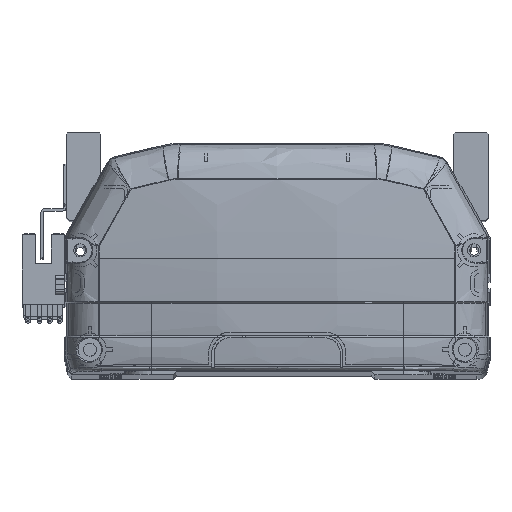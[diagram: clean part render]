
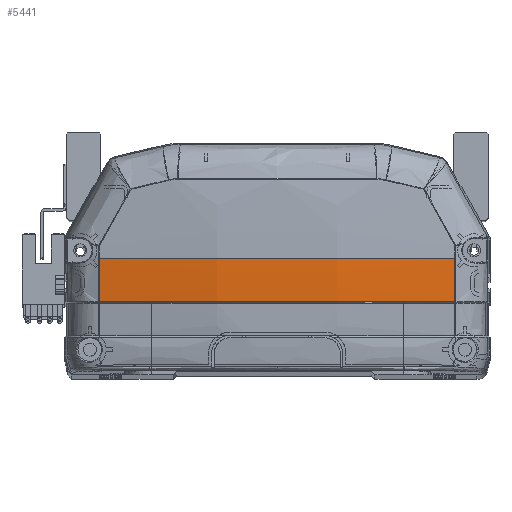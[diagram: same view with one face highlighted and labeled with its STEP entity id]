
A CAD part, top view. The second image highlights one B-rep face of the part: STEP entity #5441.
In plain terms, the highlighted free-form (B-spline) face has degree [3, 3] with [4, 4] control points.
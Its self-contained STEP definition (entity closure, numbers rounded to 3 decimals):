
#1258 = CARTESIAN_POINT ( 'NONE',  ( 57.335, 26.762, -4.928 ) ) ;
#2290 = CARTESIAN_POINT ( 'NONE',  ( -56.652, 26.814, -5.045 ) ) ;
#2812 = CARTESIAN_POINT ( 'NONE',  ( -19.295, 26.549, -11.419 ) ) ;
#4246 = CARTESIAN_POINT ( 'NONE',  ( 6452.613, 35.969, -5.158 ) ) ;
#4290 = CARTESIAN_POINT ( 'NONE',  ( 56.661, 22.225, -4.818 ) ) ;
#4483 = CARTESIAN_POINT ( 'NONE',  ( 8.363, 22.225, -9.48 ) ) ;
#4873 = EDGE_CURVE ( 'NONE', #52359, #14661, #55222, .T. ) ;
#5441 = ADVANCED_FACE ( 'NONE', ( #57320 ), #18122, .T. ) ;
#7103 = CARTESIAN_POINT ( 'NONE',  ( 19.295, 31.274, -11.535 ) ) ;
#7796 = B_SPLINE_CURVE_WITH_KNOTS ( 'NONE', 3,
 ( #47091, #38172, #2290, #20143 ),
 .UNSPECIFIED., .F., .F.,
 ( 4, 4 ),
 ( 0., 1. ),
 .UNSPECIFIED. ) ;
#8387 = CARTESIAN_POINT ( 'NONE',  ( 23.877, 22.225, -8.763 ) ) ;
#8433 = CARTESIAN_POINT ( 'NONE',  ( -56.647, 36., -5.158 ) ) ;
#8582 = CARTESIAN_POINT ( 'NONE',  ( 47.432, 22.225, -6.377 ) ) ;
#8765 = CARTESIAN_POINT ( 'NONE',  ( 38.071, 22.225, -7.566 ) ) ;
#9293 = DIRECTION ( 'NONE',  ( -1., 0., 0. ) ) ;
#10984 = CARTESIAN_POINT ( 'NONE',  ( 57.335, 36., -5.042 ) ) ;
#11802 = EDGE_CURVE ( 'NONE', #18237, #17647, #40300, .T. ) ;
#13024 = CARTESIAN_POINT ( 'NONE',  ( 2.357, 22.225, -9.562 ) ) ;
#13216 = CARTESIAN_POINT ( 'NONE',  ( 19.121, 22.225, -9.064 ) ) ;
#14661 = VERTEX_POINT ( 'NONE', #8433 ) ;
#15623 = AXIS2_PLACEMENT_3D ( 'NONE', #32168, #23261, #23453 ) ;
#16857 = ORIENTED_EDGE ( 'NONE', *, *, #11802, .T. ) ;
#17647 = VERTEX_POINT ( 'NONE', #20905 ) ;
#17905 = CARTESIAN_POINT ( 'NONE',  ( 56.647, 35.969, -5.158 ) ) ;
#18122 =( BOUNDED_SURFACE ( )  B_SPLINE_SURFACE ( 3, 3, ( 
 ( #54448, #1258, #32305, #10984 ),
 ( #37487, #28818, #7103, #19680 ),
 ( #50942, #2812, #37884, #19865 ),
 ( #29412, #47017, #29021, #38295 ) ),
 .UNSPECIFIED., .F., .F., .F. ) 
 B_SPLINE_SURFACE_WITH_KNOTS ( ( 4, 4 ),
 ( 4, 4 ),
 ( 0., 1. ),
 ( 0., 1. ),
 .UNSPECIFIED. ) 
 GEOMETRIC_REPRESENTATION_ITEM ( )  RATIONAL_B_SPLINE_SURFACE ( (
 ( 1., 1., 1., 1.),
 ( 0.99, 0.99, 0.99, 0.99),
 ( 0.99, 0.99, 0.99, 0.99),
 ( 1., 1., 1., 1.) ) ) 
 REPRESENTATION_ITEM ( '' )  SURFACE ( )  );
#18237 = VERTEX_POINT ( 'NONE', #48333 ) ;
#18751 = EDGE_CURVE ( 'NONE', #41927, #52359, #28666, .T. ) ;
#19680 = CARTESIAN_POINT ( 'NONE',  ( 19.295, 36., -11.535 ) ) ;
#19865 = CARTESIAN_POINT ( 'NONE',  ( -19.295, 36., -11.535 ) ) ;
#20143 = CARTESIAN_POINT ( 'NONE',  ( -56.661, 22.225, -4.818 ) ) ;
#20905 = CARTESIAN_POINT ( 'NONE',  ( -56.661, 22.225, -4.818 ) ) ;
#21768 = CARTESIAN_POINT ( 'NONE',  ( -56.661, 22.225, -4.818 ) ) ;
#22936 = CARTESIAN_POINT ( 'NONE',  ( 56.647, 36., -5.158 ) ) ;
#23261 = DIRECTION ( 'NONE',  ( 0., 1., 0. ) ) ;
#23453 = DIRECTION ( 'NONE',  ( 0., 0., -1. ) ) ;
#25150 = EDGE_LOOP ( 'NONE', ( #48148, #54003, #34909, #16857, #33967 ) ) ;
#26615 = CARTESIAN_POINT ( 'NONE',  ( -19.28, 22.225, -9.565 ) ) ;
#26765 = DIRECTION ( 'NONE',  ( 0., 0., -1. ) ) ;
#27047 = CARTESIAN_POINT ( 'NONE',  ( 56.647, 31.387, -5.158 ) ) ;
#28564 = CARTESIAN_POINT ( 'NONE',  ( 56.647, 35.969, -5.158 ) ) ;
#28666 = CIRCLE ( 'NONE', #43797, 6395.966 ) ;
#28818 = CARTESIAN_POINT ( 'NONE',  ( 19.295, 26.549, -11.419 ) ) ;
#29021 = CARTESIAN_POINT ( 'NONE',  ( -57.335, 31.38, -5.042 ) ) ;
#29341 = EDGE_CURVE ( 'NONE', #18237, #41927, #43717, .T. ) ;
#29412 = CARTESIAN_POINT ( 'NONE',  ( -57.335, 22.148, -4.7 ) ) ;
#32168 = CARTESIAN_POINT ( 'NONE',  ( 0., 36., 330.833 ) ) ;
#32305 = CARTESIAN_POINT ( 'NONE',  ( 57.335, 31.38, -5.042 ) ) ;
#33967 = ORIENTED_EDGE ( 'NONE', *, *, #42457, .F. ) ;
#34909 = ORIENTED_EDGE ( 'NONE', *, *, #29341, .F. ) ;
#35671 = CARTESIAN_POINT ( 'NONE',  ( -38.235, 22.225, -7.93 ) ) ;
#37487 = CARTESIAN_POINT ( 'NONE',  ( 19.295, 21.828, -11.186 ) ) ;
#37884 = CARTESIAN_POINT ( 'NONE',  ( -19.295, 31.274, -11.535 ) ) ;
#38172 = CARTESIAN_POINT ( 'NONE',  ( -56.647, 31.405, -5.158 ) ) ;
#38295 = CARTESIAN_POINT ( 'NONE',  ( -57.335, 36., -5.042 ) ) ;
#39393 = CARTESIAN_POINT ( 'NONE',  ( 4.761, 22.225, -9.537 ) ) ;
#40300 = B_SPLINE_CURVE_WITH_KNOTS ( 'NONE', 3,
 ( #4290, #8582, #8765, #8387, #13216, #53195, #4483, #39393, #13024, #48311, #26615, #35671, #21768 ),
 .UNSPECIFIED., .F., .F.,
 ( 4, 2, 2, 1, 2, 2, 4 ),
 ( 0., 0.25, 0.375, 0.438, 0.469, 0.5, 1. ),
 .UNSPECIFIED. ) ;
#41927 = VERTEX_POINT ( 'NONE', #28564 ) ;
#42457 = EDGE_CURVE ( 'NONE', #14661, #17647, #7796, .T. ) ;
#43717 = B_SPLINE_CURVE_WITH_KNOTS ( 'NONE', 3,
 ( #44480, #44655, #27047, #17905 ),
 .UNSPECIFIED., .F., .F.,
 ( 4, 4 ),
 ( 0., 1. ),
 .UNSPECIFIED. ) ;
#43797 = AXIS2_PLACEMENT_3D ( 'NONE', #4246, #26765, #9293 ) ;
#44480 = CARTESIAN_POINT ( 'NONE',  ( 56.661, 22.225, -4.818 ) ) ;
#44655 = CARTESIAN_POINT ( 'NONE',  ( 56.652, 26.806, -5.044 ) ) ;
#47017 = CARTESIAN_POINT ( 'NONE',  ( -57.335, 26.762, -4.928 ) ) ;
#47091 = CARTESIAN_POINT ( 'NONE',  ( -56.647, 36., -5.158 ) ) ;
#48148 = ORIENTED_EDGE ( 'NONE', *, *, #4873, .F. ) ;
#48311 = CARTESIAN_POINT ( 'NONE',  ( 1.152, 22.225, -9.568 ) ) ;
#48333 = CARTESIAN_POINT ( 'NONE',  ( 56.661, 22.225, -4.818 ) ) ;
#50942 = CARTESIAN_POINT ( 'NONE',  ( -19.295, 21.828, -11.186 ) ) ;
#52359 = VERTEX_POINT ( 'NONE', #22936 ) ;
#53195 = CARTESIAN_POINT ( 'NONE',  ( 11.954, 22.225, -9.367 ) ) ;
#54003 = ORIENTED_EDGE ( 'NONE', *, *, #18751, .F. ) ;
#54448 = CARTESIAN_POINT ( 'NONE',  ( 57.335, 22.148, -4.7 ) ) ;
#55222 = CIRCLE ( 'NONE', #15623, 340.733 ) ;
#57320 = FACE_OUTER_BOUND ( 'NONE', #25150, .T. ) ;
